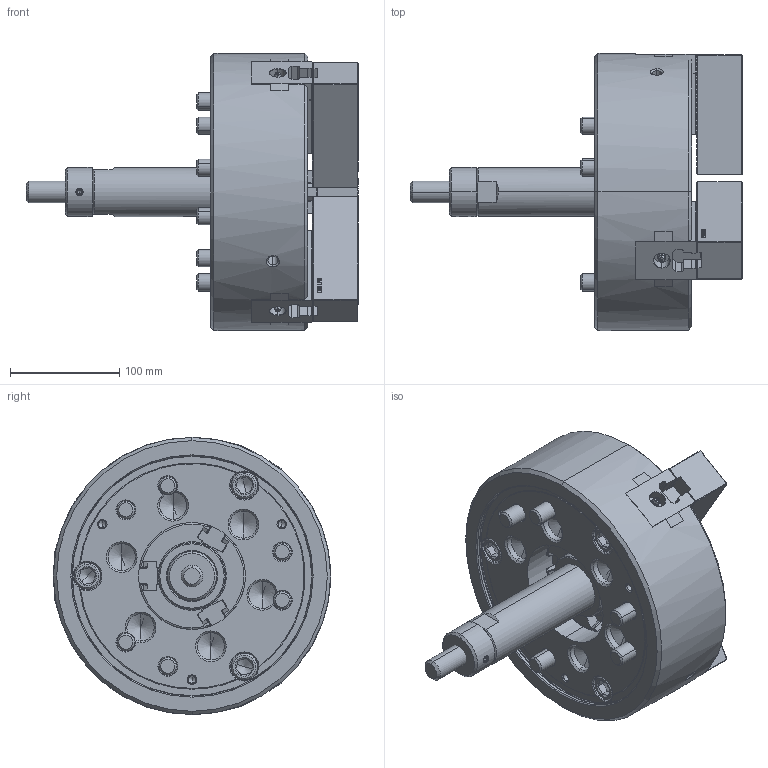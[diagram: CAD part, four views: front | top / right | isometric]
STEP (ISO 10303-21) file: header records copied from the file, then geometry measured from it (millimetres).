
FILE_DESCRIPTION (( 'STEP AP214' ), '1' );
FILE_NAME ('DT1_NL10_OUTSIDE_VIEW_HUL.STEP', '2026-03-19T06:27:33', ( '' ), ( '' ), 'SwSTEP 2.0', 'SolidWorks 2022', '' );
FILE_SCHEMA (( 'AUTOMOTIVE_DESIGN' ));
Length unit declared in the file: millimetre
Products named in the file (11): DT1_NL10_DRAWSCREW^DT1_NL10; DT1_NL10_TNUT^DT1_NL10; DT1_NL10_DN^DT1_NL10; DT1_NL10_OUTSIDE_VIEW_HUL; DT1_NL10_M5x12^DT1_NL10; DT1_NL10_M12x35^DT1_NL10; DT1_NL10_BASE^DT1_NL10; DT1_NL10_SOFTJAW^DT1_NL10; Copy of 61P335751^DT1_NL10; DT1_NL10_COVER^DT1_NL10; DT1_NL10_M16x85^DT1_NL10
Assembly tree (26 placements, depth 2):
  DT1_NL10_OUTSIDE_VIEW_HUL
    DT1_NL10_SOFTJAW^DT1_NL10  x3
    DT1_NL10_TNUT^DT1_NL10  x3
    DT1_NL10_COVER^DT1_NL10
    DT1_NL10_DRAWSCREW^DT1_NL10
    Copy of 61P335751^DT1_NL10
    DT1_NL10_M16x85^DT1_NL10  x6
    DT1_NL10_M12x35^DT1_NL10  x6
    DT1_NL10_M5x12^DT1_NL10  x3
    DT1_NL10_DN^DT1_NL10
    DT1_NL10_BASE^DT1_NL10
Bounding box: 304.29 x 254 x 254 mm (x, y, z)
Volume: 4728960.2 mm3; surface area: 504753.5 mm2
Topology: 26 solids, 32 shells, 5492 faces, 15590 edges, 10224 vertices
Faces by surface type: plane 3254, cylinder 1488, cone 433, bspline 242, torus 69, sphere 6
Entity records: 118267 total; most frequent: CARTESIAN_POINT 32979, ORIENTED_EDGE 19392, DIRECTION 15312, EDGE_CURVE 9696, LINE 6806, VECTOR 6806, VERTEX_POINT 6364, AXIS2_PLACEMENT_3D 4253
